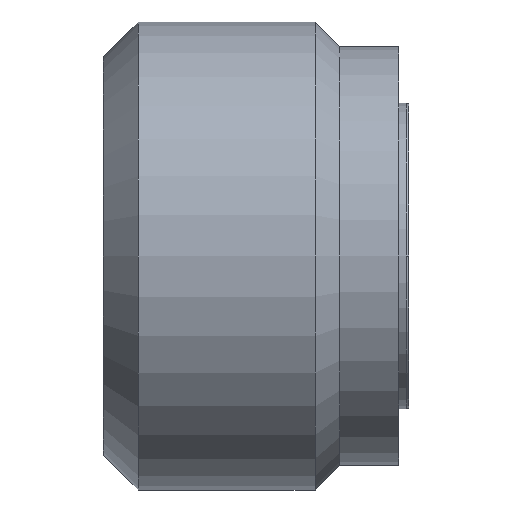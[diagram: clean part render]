
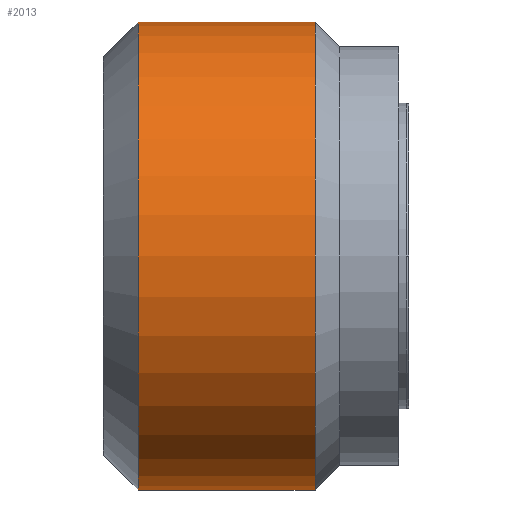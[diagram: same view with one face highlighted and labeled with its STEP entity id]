
A CAD part, front view. The second image highlights one B-rep face of the part: STEP entity #2013.
In plain terms, the highlighted cylindrical face has radius 47.5 mm (diameter 95 mm), a partial arc.
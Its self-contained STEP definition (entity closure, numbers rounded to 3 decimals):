
#285 = CARTESIAN_POINT ( 'NONE',  ( -80.437, 0., -47.5 ) ) ;
#1087 = DIRECTION ( 'NONE',  ( 1., 0., 0. ) ) ;
#1313 = CARTESIAN_POINT ( 'NONE',  ( -73.366, 0., -47.5 ) ) ;
#1854 = CARTESIAN_POINT ( 'NONE',  ( -73.366, 0., 47.5 ) ) ;
#1952 = AXIS2_PLACEMENT_3D ( 'NONE', #4606, #5237, #3982 ) ;
#2013 = ADVANCED_FACE ( 'NONE', ( #7066 ), #7991, .T. ) ;
#2021 = CIRCLE ( 'NONE', #2698, 47.5 ) ;
#2198 = DIRECTION ( 'NONE',  ( -1., 0., 0. ) ) ;
#2379 = ORIENTED_EDGE ( 'NONE', *, *, #4156, .T. ) ;
#2544 = VERTEX_POINT ( 'NONE', #1313 ) ;
#2698 = AXIS2_PLACEMENT_3D ( 'NONE', #4952, #1087, #5604 ) ;
#2914 = LINE ( 'NONE', #5736, #4423 ) ;
#3053 = CIRCLE ( 'NONE', #5070, 47.5 ) ;
#3786 = CARTESIAN_POINT ( 'NONE',  ( -37.437, 0., 47.5 ) ) ;
#3844 = DIRECTION ( 'NONE',  ( -1., 0., 0. ) ) ;
#3849 = LINE ( 'NONE', #285, #5374 ) ;
#3982 = DIRECTION ( 'NONE',  ( 0., 0., 1. ) ) ;
#4156 = EDGE_CURVE ( 'NONE', #4909, #8007, #3053, .T. ) ;
#4423 = VECTOR ( 'NONE', #6374, 1000. ) ;
#4586 = VERTEX_POINT ( 'NONE', #1854 ) ;
#4606 = CARTESIAN_POINT ( 'NONE',  ( -80.437, 0., 0. ) ) ;
#4755 = EDGE_CURVE ( 'NONE', #4909, #2544, #3849, .T. ) ;
#4787 = ORIENTED_EDGE ( 'NONE', *, *, #7448, .T. ) ;
#4900 = ORIENTED_EDGE ( 'NONE', *, *, #5299, .T. ) ;
#4909 = VERTEX_POINT ( 'NONE', #5535 ) ;
#4952 = CARTESIAN_POINT ( 'NONE',  ( -73.366, 0., 0. ) ) ;
#5070 = AXIS2_PLACEMENT_3D ( 'NONE', #7697, #3844, #8358 ) ;
#5237 = DIRECTION ( 'NONE',  ( -1., 0., 0. ) ) ;
#5299 = EDGE_CURVE ( 'NONE', #8007, #4586, #2914, .T. ) ;
#5374 = VECTOR ( 'NONE', #2198, 1000. ) ;
#5486 = EDGE_LOOP ( 'NONE', ( #7918, #2379, #4900, #4787 ) ) ;
#5535 = CARTESIAN_POINT ( 'NONE',  ( -37.437, 0., -47.5 ) ) ;
#5604 = DIRECTION ( 'NONE',  ( 0., 0., 1. ) ) ;
#5736 = CARTESIAN_POINT ( 'NONE',  ( -80.437, 0., 47.5 ) ) ;
#6374 = DIRECTION ( 'NONE',  ( -1., 0., 0. ) ) ;
#7066 = FACE_OUTER_BOUND ( 'NONE', #5486, .T. ) ;
#7448 = EDGE_CURVE ( 'NONE', #4586, #2544, #2021, .T. ) ;
#7697 = CARTESIAN_POINT ( 'NONE',  ( -37.437, 0., 0. ) ) ;
#7918 = ORIENTED_EDGE ( 'NONE', *, *, #4755, .F. ) ;
#7991 = CYLINDRICAL_SURFACE ( 'NONE', #1952, 47.5 ) ;
#8007 = VERTEX_POINT ( 'NONE', #3786 ) ;
#8358 = DIRECTION ( 'NONE',  ( 0., 0., 1. ) ) ;
